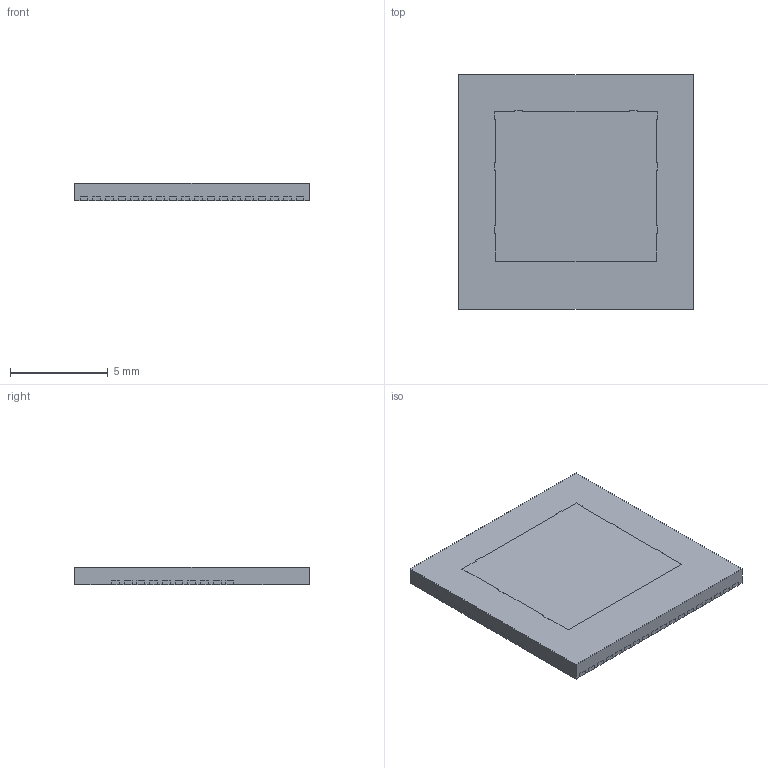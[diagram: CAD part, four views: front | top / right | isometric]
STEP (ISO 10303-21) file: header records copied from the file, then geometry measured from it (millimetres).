
FILE_DESCRIPTION(('STEP AP214'),'1');
FILE_NAME('LMG3522R030_TA.stp','2022-03-02T18:58:26',(' '),(' '),'Spatial InterOp 3D',' ',' ');
FILE_SCHEMA(('AUTOMOTIVE_DESIGN { 1 0 10303 214 1 1 1 1 }'));
Length unit declared in the file: metre
Products named in the file (20): UNIT_ASM_13_ASM; UNIT_ASM_13_ASM Geometry; UNIT_SPLIT1_156_ASM; UNIT_SPLIT1_156_1; UNIT_SPLIT1_156_2; UNIT_SPLIT1_156_3; UNIT_SPLIT1_156_4; UNIT_SPLIT1_156_5; UNIT_SPLIT1_156_6; UNIT_SPLIT1_156_7; UNIT_SPLIT1_156_8; UNIT_SPLIT1_156_9; UNIT_SPLIT1_156_10; UNIT_SPLIT1_156_11; UNIT_SPLIT1_156_12; DIRVER_DA_2; GAN_DA_2; DRIVER_DIE_5; GAN_DIE_3; LMG3522R030_TA
Assembly tree (19 placements, depth 4):
  LMG3522R030_TA
    UNIT_ASM_13_ASM
      UNIT_ASM_13_ASM Geometry
      UNIT_SPLIT1_156_ASM
        UNIT_SPLIT1_156_1
        UNIT_SPLIT1_156_2
        UNIT_SPLIT1_156_3
        UNIT_SPLIT1_156_4
        UNIT_SPLIT1_156_5
        UNIT_SPLIT1_156_6
        UNIT_SPLIT1_156_7
        UNIT_SPLIT1_156_8
        UNIT_SPLIT1_156_9
        UNIT_SPLIT1_156_10
        UNIT_SPLIT1_156_11
        UNIT_SPLIT1_156_12
      DIRVER_DA_2
      GAN_DA_2
      DRIVER_DIE_5
      GAN_DIE_3
Bounding box: 12 x 12 x 0.9 mm (x, y, z)
Volume: 129.6 mm3; surface area: 931.6 mm2
Topology: 17 solids, 17 shells, 1991 faces, 6140 edges, 4092 vertices
Faces by surface type: plane 1883, cylinder 108
Entity records: 98274 total; most frequent: ORIENTED_EDGE 12280, CARTESIAN_POINT 12245, DIRECTION 10386, EDGE_CURVE 6140, STYLED_ITEM 6079, PRESENTATION_STYLE_ASSIGNMENT 6079, COLOUR_RGB 6079, CURVE_STYLE 6062
